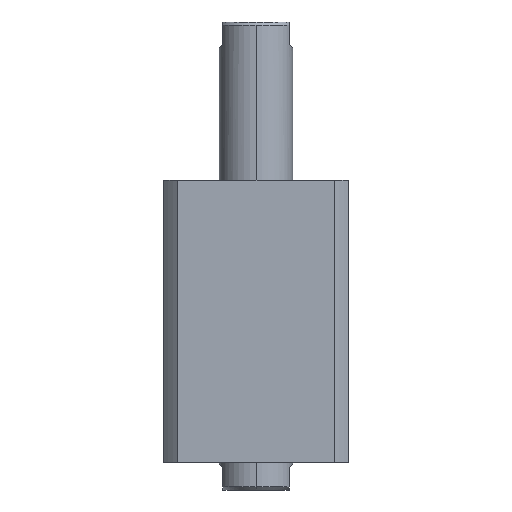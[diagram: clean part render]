
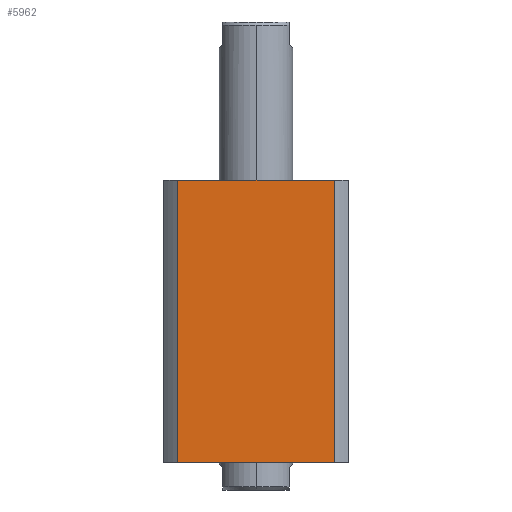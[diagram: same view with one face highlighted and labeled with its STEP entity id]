
A CAD part, front view. The second image highlights one B-rep face of the part: STEP entity #5962.
In plain terms, the highlighted planar face has unit normal (0, -1, 0) as drawn and (-1, 0, 0) by its records, which use the part's own axes.
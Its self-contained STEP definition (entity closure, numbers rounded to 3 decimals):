
#181 = DIRECTION ( 'NONE',  ( 0., 1., 0. ) ) ;
#372 = CARTESIAN_POINT ( 'NONE',  ( -57., -47.971, -127. ) ) ;
#540 = EDGE_CURVE ( 'NONE', #14740, #10565, #15057, .T. ) ;
#2277 = EDGE_CURVE ( 'NONE', #2585, #5193, #15315, .T. ) ;
#2585 = VERTEX_POINT ( 'NONE', #3253 ) ;
#2608 = ORIENTED_EDGE ( 'NONE', *, *, #2277, .F. ) ;
#2697 = ORIENTED_EDGE ( 'NONE', *, *, #540, .F. ) ;
#3253 = CARTESIAN_POINT ( 'NONE',  ( -57., 47.971, 0. ) ) ;
#3700 = CARTESIAN_POINT ( 'NONE',  ( -57., 47.971, 173. ) ) ;
#4065 = DIRECTION ( 'NONE',  ( 0., 0., 1. ) ) ;
#4234 = LINE ( 'NONE', #6920, #13583 ) ;
#4324 = VECTOR ( 'NONE', #11716, 1000. ) ;
#4990 = PLANE ( 'NONE',  #10465 ) ;
#5193 = VERTEX_POINT ( 'NONE', #3700 ) ;
#5302 = CARTESIAN_POINT ( 'NONE',  ( -57., -47.971, 173. ) ) ;
#5624 = VECTOR ( 'NONE', #4065, 1000. ) ;
#5962 = ADVANCED_FACE ( 'NONE', ( #13868 ), #4990, .F. ) ;
#6264 = CARTESIAN_POINT ( 'NONE',  ( -57., -47.971, 0. ) ) ;
#6570 = ORIENTED_EDGE ( 'NONE', *, *, #15079, .T. ) ;
#6595 = EDGE_CURVE ( 'NONE', #5193, #14740, #7964, .T. ) ;
#6723 = DIRECTION ( 'NONE',  ( 0., 0., -1. ) ) ;
#6811 = CARTESIAN_POINT ( 'NONE',  ( -57., 57., 173. ) ) ;
#6920 = CARTESIAN_POINT ( 'NONE',  ( -57., 57., 0. ) ) ;
#7081 = EDGE_LOOP ( 'NONE', ( #2608, #6570, #2697, #15504 ) ) ;
#7449 = DIRECTION ( 'NONE',  ( 1., 0., 0. ) ) ;
#7711 = CARTESIAN_POINT ( 'NONE',  ( -57., 47.971, -127. ) ) ;
#7964 = LINE ( 'NONE', #6811, #4324 ) ;
#10465 = AXIS2_PLACEMENT_3D ( 'NONE', #14731, #7449, #181 ) ;
#10565 = VERTEX_POINT ( 'NONE', #6264 ) ;
#11716 = DIRECTION ( 'NONE',  ( 0., -1., 0. ) ) ;
#11770 = DIRECTION ( 'NONE',  ( 0., -1., 0. ) ) ;
#11820 = VECTOR ( 'NONE', #6723, 1000. ) ;
#13583 = VECTOR ( 'NONE', #11770, 1000. ) ;
#13868 = FACE_OUTER_BOUND ( 'NONE', #7081, .T. ) ;
#14731 = CARTESIAN_POINT ( 'NONE',  ( -57., 57., 173. ) ) ;
#14740 = VERTEX_POINT ( 'NONE', #5302 ) ;
#15057 = LINE ( 'NONE', #372, #11820 ) ;
#15079 = EDGE_CURVE ( 'NONE', #2585, #10565, #4234, .T. ) ;
#15315 = LINE ( 'NONE', #7711, #5624 ) ;
#15504 = ORIENTED_EDGE ( 'NONE', *, *, #6595, .F. ) ;
